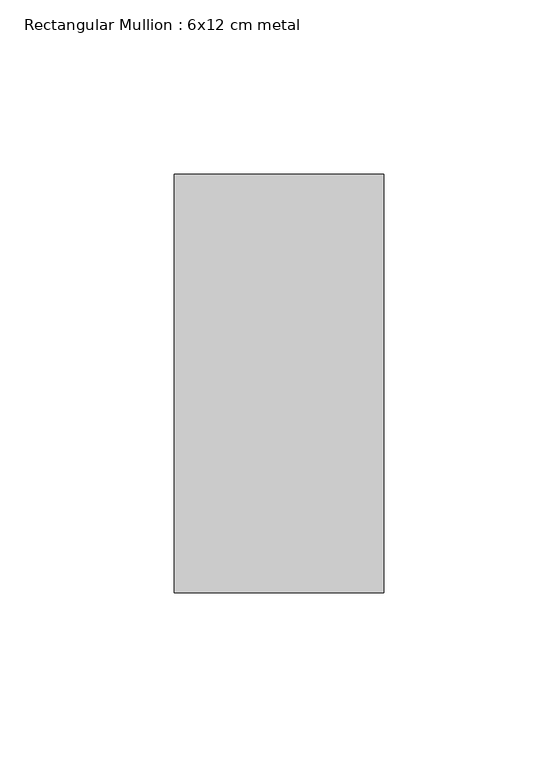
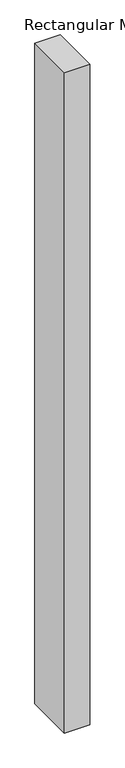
"""IFC4 building model written with IfcOpenShell, lengths in millimetres: member geometry, Rectangular Mullion : 6x12 cm metal."""

from ifc_helpers import new_model, si_unit, frame, origin, place, context, project, spatial, polyline, outline, extrude, source, transform, mapped, element, save


def rectangular_mullion_6x12_cm_metal_4e4d96e5(model_context):
    return source(origin(), model_context, "Body", "SweptSolid", [
        extrude(outline(polyline([(0.0, 60.0), (0.0, -60.0), (-60.0, -60.0), (-60.0, 60.0), (0.0, 60.0)])), frame((0.0, 0.0, -1640.0), z_axis=(0.0, 0.0, 1.0), x_axis=(1.0, 0.0, 0.0)), (0.0, 0.0, 1.0), 1640.0),
    ])


if __name__ == "__main__":
    model = new_model("IFC4")
    model_context = context("Model", 3, world=origin())
    ifc_project = project(units=[si_unit("LENGTHUNIT", "METRE", prefix="MILLI")], contexts=[model_context])
    site = spatial("IfcSite", under=ifc_project)
    building = spatial("IfcBuilding", under=site)
    placement = place(None, origin())
    rectangular_mullion_6x12_cm_metal_shape = rectangular_mullion_6x12_cm_metal_4e4d96e5(model_context)
    element("IfcMember", 1, ObjectType="Rectangular Mullion : 6x12 cm metal", at=placement, inside=building, context=model_context, shape_type="MappedRepresentation", body=[
        mapped(rectangular_mullion_6x12_cm_metal_shape, transform((0.0, 0.0, 0.0), x_axis=(1.0, 0.0, 0.0), y_axis=(0.0, 1.0, 0.0), z_axis=(0.0, 0.0, 1.0))),
    ])
    save(model, "model.ifc")
